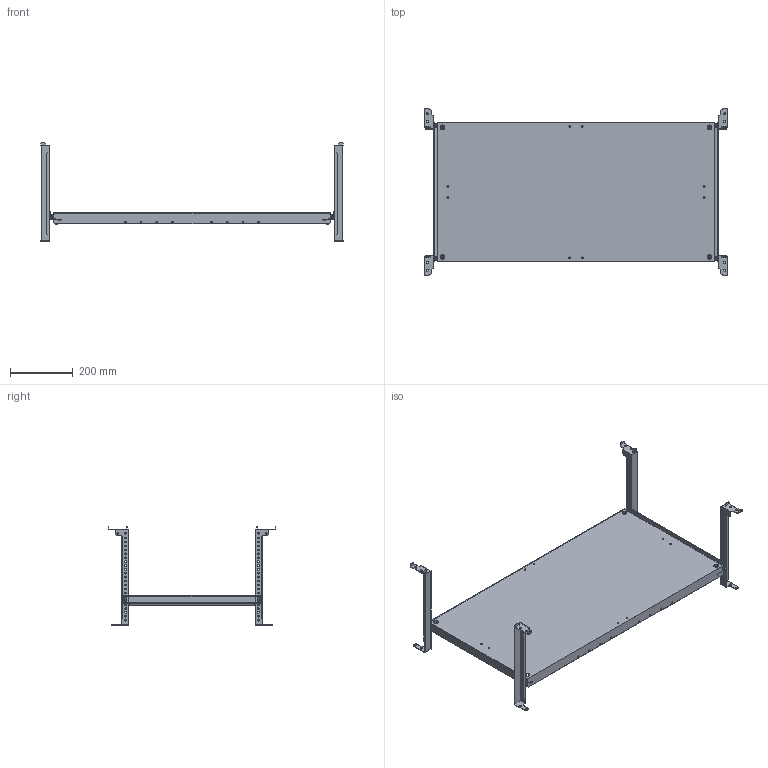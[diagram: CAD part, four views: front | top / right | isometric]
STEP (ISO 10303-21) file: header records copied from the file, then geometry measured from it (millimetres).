
FILE_DESCRIPTION (( 'STEP AP214' ), '1' );
FILE_NAME ('FO-00-MPU-045-100 Ïàíåëü ìîíòàæíàÿ óíèâåðñàëüíàÿ 450õ1000 ìì.STEP', '2025-07-16T08:42:17', ( '' ), ( '' ), 'SwSTEP 2.0', 'SolidWorks 2023', '' );
FILE_SCHEMA (( 'AUTOMOTIVE_DESIGN' ));
Length unit declared in the file: millimetre
Products named in the file (5): FO-00-MPU-045-100 Панель монтажная универсальная 450х1000 мм; Винты DIN 912 4xM6x20 450x1000; Траверса горизонтальнаяD; Траверса горизонтальная; Панель монтажная универсальная 450х1000 мм
Assembly tree (6 placements, depth 2):
  FO-00-MPU-045-100 Панель монтажная универсальная 450х1000 мм
    Панель монтажная универсальная 450х1000 мм
    Винты DIN 912 4xM6x20 450x1000
    Траверса горизонтальная  x2
    Траверса горизонтальнаяD  x2
Bounding box: 966 x 535 x 314.5 mm (x, y, z)
Volume: 1282287 mm3; surface area: 1303751.5 mm2
Topology: 9 solids, 13 shells, 994 faces, 2710 edges, 1790 vertices
Faces by surface type: cylinder 460, plane 442, cone 60, torus 32
Entity records: 27715 total; most frequent: CARTESIAN_POINT 7563, DIRECTION 4198, ORIENTED_EDGE 4088, EDGE_CURVE 2044, AXIS2_PLACEMENT_3D 1535, VERTEX_POINT 1346, VECTOR 1128, LINE 1128
